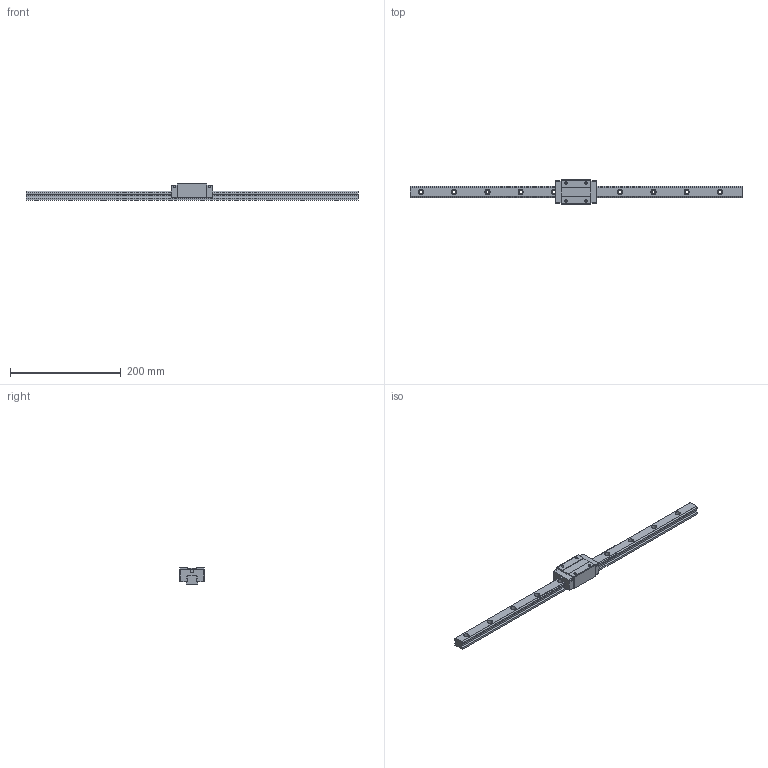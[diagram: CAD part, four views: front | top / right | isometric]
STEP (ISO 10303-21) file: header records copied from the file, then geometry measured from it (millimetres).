
FILE_DESCRIPTION (( 'STEP AP203' ), '1' );
FILE_NAME ('TRH20VN-XN.STEP', '2024-05-23T03:10:34', ( '' ), ( '' ), 'SwSTEP 2.0', 'SolidWorks 2022', '' );
FILE_SCHEMA (( 'CONFIG_CONTROL_DESIGN' ));
Length unit declared in the file: millimetre
Products named in the file (1): TRH20VN-XN
Bounding box: 600 x 44 x 30 mm (x, y, z)
Volume: 231895.9 mm3; surface area: 64121.5 mm2
Topology: 2 solids, 2 shells, 196 faces, 512 edges, 332 vertices
Faces by surface type: cylinder 96, plane 84, cone 16
Entity records: 6127 total; most frequent: DIRECTION 1098, CARTESIAN_POINT 1033, ORIENTED_EDGE 1008, EDGE_CURVE 504, AXIS2_PLACEMENT_3D 397, VERTEX_POINT 332, VECTOR 304, LINE 304
